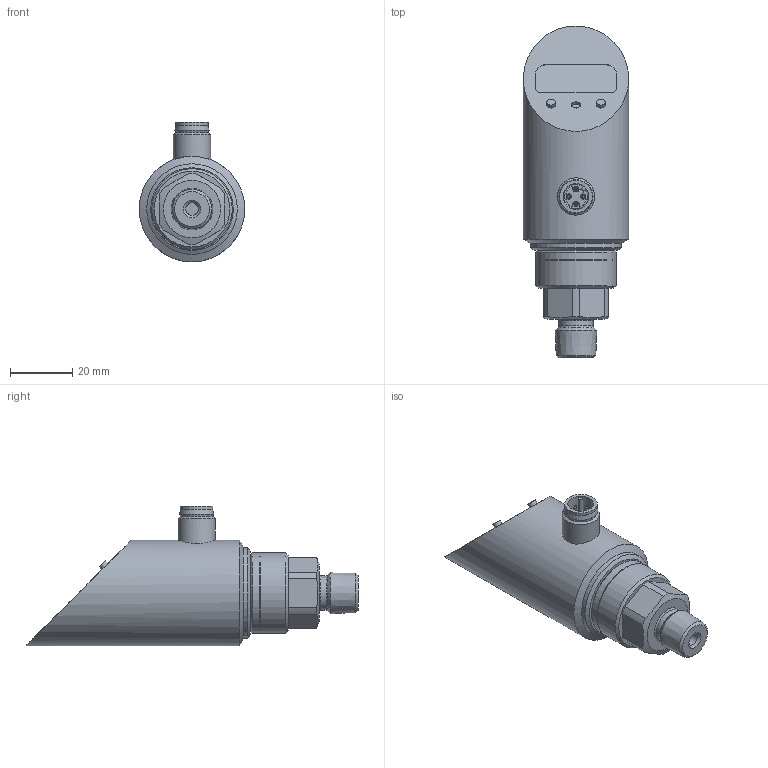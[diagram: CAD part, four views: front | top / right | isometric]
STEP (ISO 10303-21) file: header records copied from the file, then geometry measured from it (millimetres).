
FILE_DESCRIPTION((''),'2;1');
FILE_NAME('C:\TurckZip\PS-303-H1.stp','2011-01-05T11:55:38',('IKOROL'),(''),'Autodesk Inventor 2010','Autodesk Inventor 2010','');
FILE_SCHEMA(('CONFIG_CONTROL_DESIGN'));
Length unit declared in the file: millimetre
Products named in the file (1): Part1
Bounding box: 34 x 107 x 45 mm (x, y, z)
Volume: 60510.5 mm3; surface area: 12004.4 mm2
Topology: 1 solids, 7 shells, 179 faces, 410 edges, 259 vertices
Faces by surface type: cylinder 72, plane 58, cone 24, bspline 21, torus 4
Full cylindrical faces by diameter (mm): 0.8 x4, 1 x12, 1.8 x4, 2.8 x2, 2.807 x1, 4 x1, 8 x1, 8.3 x1, 9 x2, 10 x1, 10.5 x1, 11 x1, 12 x1, 25.446 x1, 26 x2, 29.221 x1, 34 x1
Entity records: 5467 total; most frequent: CARTESIAN_POINT 1585, DIRECTION 786, ORIENTED_EDGE 616, AXIS2_PLACEMENT_3D 336, EDGE_CURVE 308, EDGE_LOOP 296, VERTEX_POINT 242, STYLED_ITEM 180
